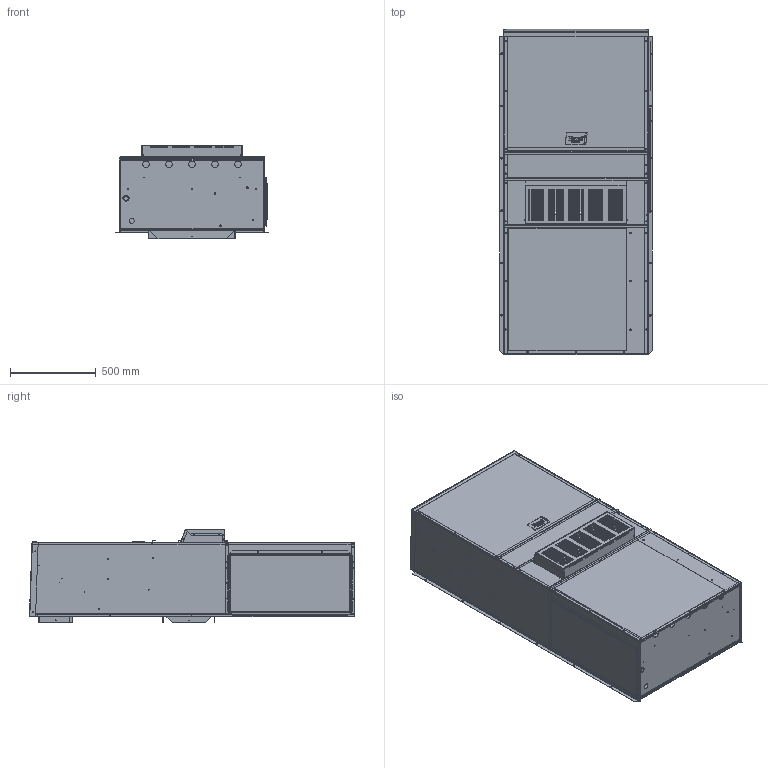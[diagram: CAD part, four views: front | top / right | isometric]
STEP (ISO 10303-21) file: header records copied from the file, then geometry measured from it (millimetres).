
FILE_DESCRIPTION (( 'STEP AP214' ), '1' );
FILE_NAME ('STEP_700_3.STEP', '2020-01-31T13:32:25', ( '' ), ( '' ), 'SwSTEP 2.0', 'SolidWorks 2019', '' );
FILE_SCHEMA (( 'AUTOMOTIVE_DESIGN' ));
Length unit declared in the file: inch
Products named in the file (49): Part2^W24AB-A; 111X032; 1171-024, retainer clip; 501-934; W17A2-W24A2-2 TON SCHOOL HOOD; 152-538; 120-528; 506-311_uncompressed insulation; 138-092; 1913-017-2200; 104-874; 152-539; 1012-217; 543-175; 114-240; 138-078; 1012-149; 5021-2639_uncompressed; Copy of Part1^514-240; 521X528; 112-137; 1913-013-0803_access door; 533-228_CLOSED; 152-218; 118-101_grille; 126-467; 132-228; 1012-086; 1913-017-1000; 5252-033; 108-342; 1012-065, panhead screw; 100-934; 501-933; 142-175; 105-202; 118-105; 138-091; 110-033; 106-311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
Assembly tree (58 placements, depth 3):
  Part2^W24AB-A
  1012-217
  STEP_700_3
    1012-086  x4
    1012-065, panhead screw  x3
    5252-033
    543-175
      142-175
    533-228_CLOSED
      132-228
      104-874
      1012-149  x2
      1171-023, receptacle
      1913-017-1002
      1913-013-0803_access door
      152-218
      1171-024, retainer clip
    118-105  x2
    126-467
    118-101_grille
    501-933
      100-933
      5021-1899
    501-934
      100-934
    108-342
    506-311_uncompressed insulation
      106-311
    111X032
      110-033  x2
      112-137
    514-240
      114-240
      5021-2639_uncompressed
      Copy of Part1^514-240
    521X528
      120-528
    152-538
    W17A2-W24A2-2 TON SCHOOL HOOD
      138-091
      138-078
      138-080
      138-092
      105-202  x2
      8611-057  x2
      8611-059  x2
      1913-017-1000  x2
      1913-017-2200
      152-539
Bounding box: 888.58 x 1893.92 x 544.57 mm (x, y, z)
Volume: 16673342.5 mm3; surface area: 14810458.2 mm2
Topology: 49 solids, 56 shells, 3495 faces, 8681 edges, 5383 vertices
Faces by surface type: plane 1927, cylinder 746, torus 668, bspline 128, cone 15, sphere 11
Full cylindrical faces by diameter (mm): 1.588 x2, 3.175 x98, 3.327 x6, 3.969 x20, 4.661 x1, 4.763 x46, 4.775 x27, 5.08 x1, 5.159 x2, 5.556 x2, 5.734 x1, 6.35 x62, 7.137 x4, 7.144 x6, 7.937 x2, 7.938 x3, 9.525 x17, 10.185 x4, 10.319 x1, 11.113 x4, 12.7 x1, 22.225 x1, 28.575 x2, 38.1 x5
Entity records: 105471 total; most frequent: CARTESIAN_POINT 22998, DIRECTION 16394, ORIENTED_EDGE 15086, EDGE_CURVE 7555, AXIS2_PLACEMENT_3D 6082, VERTEX_POINT 4904, EDGE_LOOP 4457, LINE 4230
